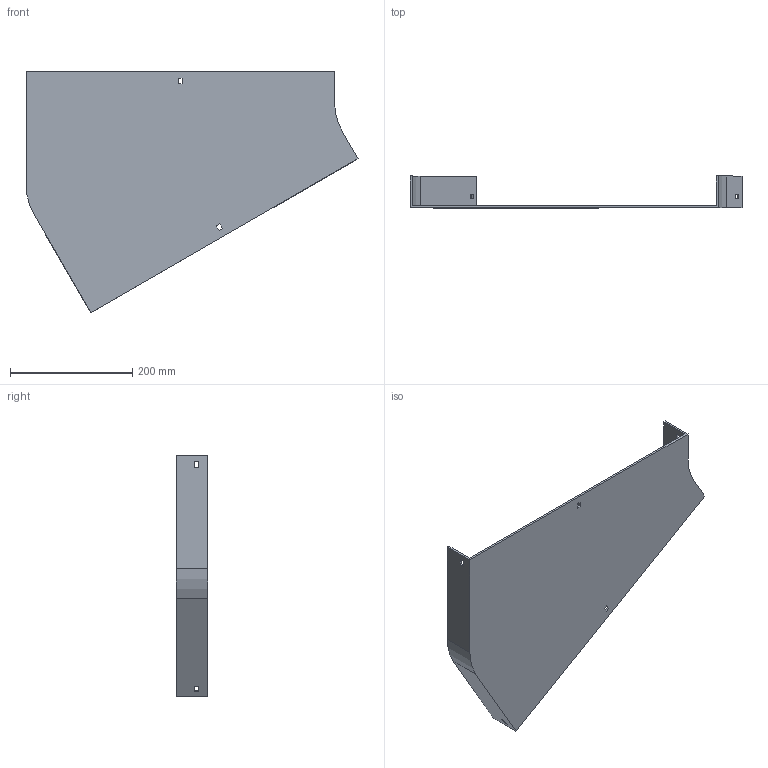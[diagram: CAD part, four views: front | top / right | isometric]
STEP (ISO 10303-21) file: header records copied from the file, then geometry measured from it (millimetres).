
FILE_DESCRIPTION (( 'STEP AP214' ), '1' );
FILE_NAME ('12B1B500.step', '2025-02-21T09:34:40', ( '' ), ( '' ), 'SwSTEP 2.0', 'SolidWorks 2023', '' );
FILE_SCHEMA (( 'AUTOMOTIVE_DESIGN' ));
Length unit declared in the file: millimetre
Products named in the file (1): 12B1B500
Bounding box: 542.4 x 52 x 395.3 mm (x, y, z)
Volume: 605339.2 mm3; surface area: 352820 mm2
Topology: 1 solids, 1 shells, 42 faces, 120 edges, 80 vertices
Faces by surface type: plane 38, cylinder 4
Entity records: 1399 total; most frequent: CARTESIAN_POINT 243, ORIENTED_EDGE 240, DIRECTION 214, EDGE_CURVE 120, VECTOR 112, LINE 112, VERTEX_POINT 80, EDGE_LOOP 54
